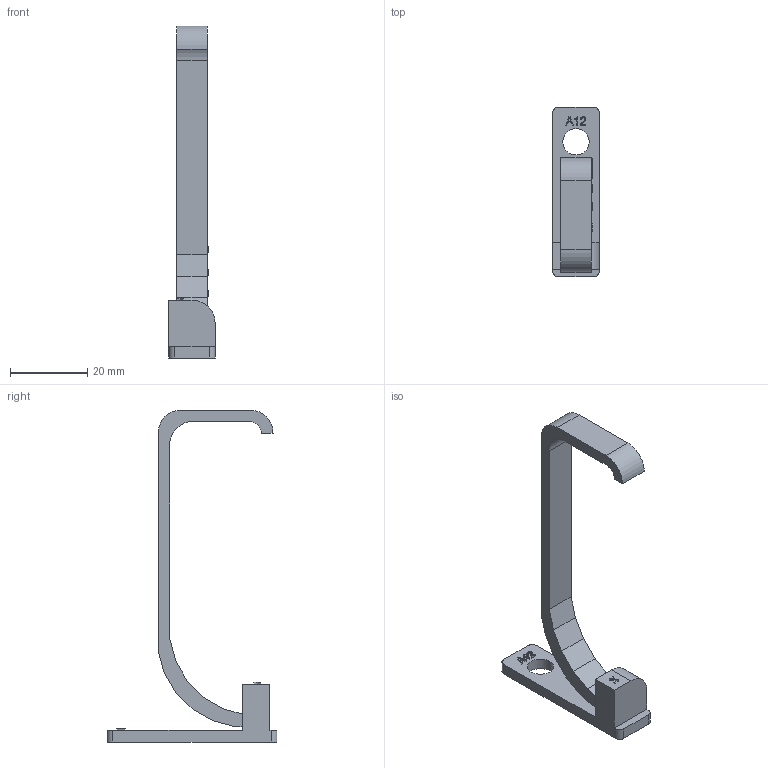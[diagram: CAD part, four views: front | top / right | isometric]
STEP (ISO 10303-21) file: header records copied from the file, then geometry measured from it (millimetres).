
FILE_DESCRIPTION(('Open CASCADE Model'),'2;1');
FILE_NAME('Open CASCADE Shape Model','1970-01-01T00:00:00',('Author'),( 'Open CASCADE'),'Open CASCADE STEP processor 7.8','Open CASCADE 7.8' ,'Unknown');
FILE_SCHEMA(('AUTOMOTIVE_DESIGN { 1 0 10303 214 1 1 1 1 }'));
Length unit declared in the file: millimetre
Products named in the file (2): Open CASCADE STEP translator 7.8 14; A12 angle and curve blade
Assembly tree (1 placements, depth 2):
  Open CASCADE STEP translator 7.8 14
    A12 angle and curve blade
Bounding box: 12 x 44 x 86 mm (x, y, z)
Volume: 5396 mm3; surface area: 4502.8 mm2
Topology: 1 solids, 1 shells, 371 faces, 1037 edges, 691 vertices
Faces by surface type: extrusion 226, plane 134, cylinder 11
Full cylindrical faces by diameter (mm): 6.8 x2
Entity records: 29001 total; most frequent: CARTESIAN_POINT 10597, DIRECTION 2341, ORIENTED_EDGE 2074, PCURVE 2074, DEFINITIONAL_REPRESENTATION 2074, VECTOR 1985, LINE 1759, B_SPLINE_CURVE_WITH_KNOTS 1532
